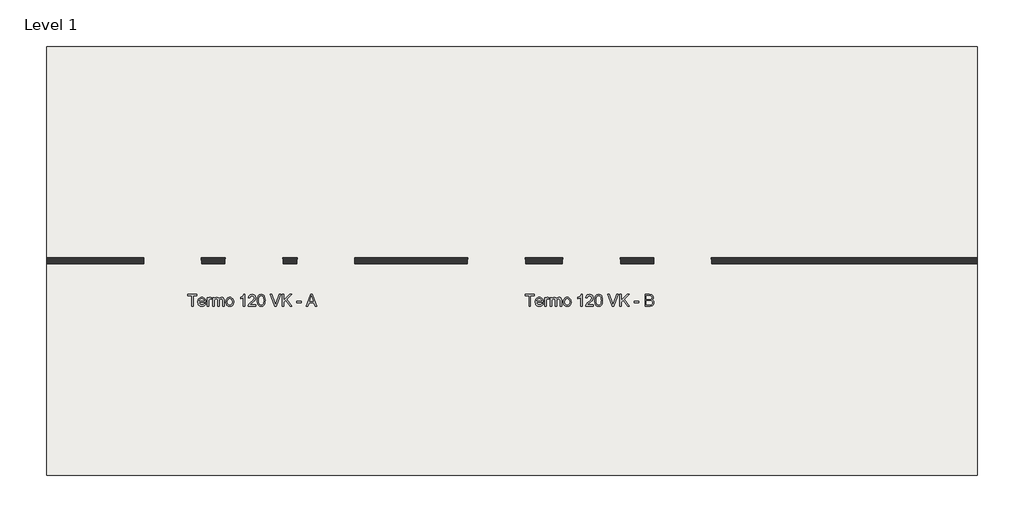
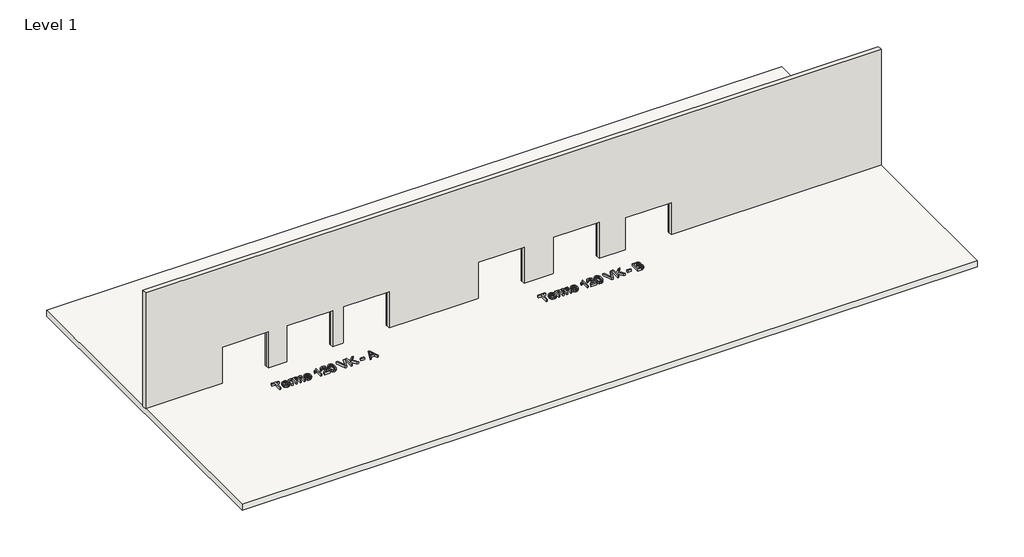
# One storey, incomplete: 2 proxies, 1 slab, 1 wall.
"""IFC4 building model written with IfcOpenShell, lengths in millimetres."""

from ifc_helpers import new_model, si_unit, frame, origin, origin_with_axes, place, context, project, spatial, polyline, outline, extrude, faceted_brep, element, save

model = new_model("IFC4")

# Units and contexts
model_context = context("Model", 3, world=origin())
ifc_project = project(units=[si_unit("LENGTHUNIT", "METRE", prefix="MILLI")], contexts=[model_context])

# Site, building, storey
site = spatial("IfcSite", under=ifc_project)
building = spatial("IfcBuilding", under=site)
storey = spatial("IfcBuildingStorey", under=building, Name="Level 1", Elevation=0.0)

# Proxies
placement = place(None, origin())
element("IfcBuildingElementProxy", 1, Name="600mm Arial", ObjectType="600mm Arial", at=placement, inside=storey, context=model_context, shape_type="SweptSolid", body=[
    extrude(outline(polyline([(-16765.2081941, -2366.0717314), (-16765.2081941, -1838.6761031), (-16962.9815547, -1838.6761031), (-16962.9815547, -1763.3338705), (-16492.0926009, -1763.3338705), (-16492.0926009, -1838.6761031), (-16689.8659615, -1838.6761031), (-16689.8659615, -2366.0717314), (-16765.2081941, -2366.0717314)])), origin_with_axes(), (0.0, 0.0, 1.0), 150.0),
    extrude(outline(polyline([(-16106.8465755, -2234.2228243), (-16032.9758709, -2243.6406034), (-16044.3020378, -2273.2275129), (-16059.5921333, -2299.3011493), (-16078.8461572, -2321.8615127), (-16102.0641096, -2340.908603), (-16129.0068672, -2356.03775), (-16159.4353068, -2366.8442836), (-16193.3494282, -2373.3282038), (-16230.7492315, -2375.4895105), (-16277.4978361, -2371.7601068), (-16319.151275, -2360.5718956), (-16355.7095482, -2341.924877), (-16387.1726559, -2315.8190509), (-16412.4737401, -2282.9809843), (-16430.5459431, -2244.1372441), (-16441.3892649, -2199.2878304), (-16445.0037055, -2148.4327431), (-16441.3524767, -2095.8532089), (-16430.3987903, -2049.5092746), (-16412.1426463, -2009.40094), (-16386.5840447, -1975.5282053), (-16355.2037105, -1948.6176374), (-16319.4823688, -1929.3958031), (-16279.4200195, -1917.8627026), (-16235.0166627, -1914.0183357), (-16192.0434471, -1917.8535055), (-16153.1813128, -1929.3590149), (-16118.4302599, -1948.5348639), (-16087.7902882, -1975.3810525), (-16062.778911, -2009.1802108), (-16044.9136417, -2049.214969), (-16034.19448, -2095.4853269), (-16030.6214261, -2147.9912847), (-16031.0628845, -2168.2983708), (-16369.6614729, -2168.2983708), (-16365.2974727, -2198.3635269), (-16356.6200562, -2224.6946807), (-16343.6292232, -2247.2918322), (-16326.3249739, -2266.1549815), (-16305.6638013, -2281.0266112), (-16282.6021987, -2291.6492038), (-16257.1401661, -2298.0227594), (-16229.2777035, -2300.1472779), (-16189.1785661, -2296.2109405), (-16155.4069989, -2284.4019285), (-16127.9630021, -2263.9844778), (-16106.8465755, -2234.2228243)]), holes=[polyline([(-16369.6614729, -2092.9561382), (-16105.9636588, -2092.9561382), (-16116.15399, -2053.1513063), (-16124.9187786, -2037.4979274), (-16136.1299824, -2024.6772399), (-16156.6761918, -2009.2261961), (-16180.0550926, -1998.1897362), (-16206.2666847, -1991.5678603), (-16235.3109683, -1989.3605684), (-16261.8030704, -1991.1218034), (-16286.0970777, -1996.4055086), (-16308.19299, -2005.2116838), (-16328.0908074, -2017.5403292), (-16344.7880515, -2032.8212276), (-16357.2822438, -2050.4841619), (-16365.5733842, -2070.5291321), (-16369.6614729, -2092.9561382)])]), origin_with_axes(), (0.0, 0.0, 1.0), 150.0),
    extrude(outline(polyline([(-15955.2791935, -2366.0717314), (-15955.2791935, -1923.4361148), (-15889.35474, -1923.4361148), (-15889.35474, -1988.91911), (-15865.0009519, -1950.9536881), (-15842.5601502, -1928.5864628), (-15820.0457721, -1917.6603675), (-15795.4712548, -1914.0183357), (-15757.9472913, -1919.8308713), (-15719.8347166, -1937.2684778), (-15744.9978451, -2004.8116122), (-15771.4853487, -1993.2233293), (-15797.9728524, -1989.3605684), (-15820.4688364, -1993.0761765), (-15840.5735874, -2004.223001), (-15856.8155775, -2021.9549131), (-15867.7232787, -2045.4257844), (-15876.8835404, -2087.5114847), (-15879.9369609, -2133.4231577), (-15879.9369609, -2366.0717314), (-15955.2791935, -2366.0717314)])), origin_with_axes(), (0.0, 0.0, 1.0), 150.0),
    extrude(outline(polyline([(-15672.7458212, -2366.0717314), (-15672.7458212, -1923.4361148), (-15597.4035886, -1923.4361148), (-15597.4035886, -1996.2767499), (-15574.7420577, -1962.8178824), (-15545.6058037, -1936.6062903), (-15510.988108, -1919.6653244), (-15471.8822519, -1914.0183357), (-15429.9804926, -1919.775689), (-15412.1474129, -1926.9723805), (-15396.3928665, -1937.0477486), (-15371.3033144, -1964.6940806), (-15354.8957774, -2001.5742506), (-15327.4333865, -1963.2685379), (-15296.1082346, -1935.9073145), (-15260.9203217, -1919.4905804), (-15221.8696479, -1914.0183357), (-15191.7079229, -1916.2946056), (-15165.2342148, -1923.1234151), (-15142.4485237, -1934.5047644), (-15123.3508496, -1950.4386533), (-15108.2538923, -1971.1090229), (-15097.4703513, -1996.6998142), (-15091.0002267, -2027.2110271), (-15088.8435185, -2062.6426618), (-15088.8435185, -2366.0717314), (-15164.1857511, -2366.0717314), (-15164.1857511, -2095.0162774), (-15165.9331906, -2057.4371316), (-15171.175509, -2032.1084562), (-15180.9979583, -2014.7628201), (-15196.4857903, -2001.1327922), (-15216.4066003, -1992.3036243), (-15239.5279837, -1989.3605684), (-15260.878935, -1991.2459636), (-15280.3444911, -1996.9021493), (-15297.9246519, -2006.3291254), (-15313.6194175, -2019.526892), (-15326.5274771, -2036.8817251), (-15335.7475196, -2058.7799008), (-15341.2795451, -2085.2214193), (-15343.1235536, -2116.2062803), (-15343.1235536, -2366.0717314), (-15418.4657862, -2366.0717314), (-15418.4657862, -2086.6285679), (-15422.8251878, -2044.0278328), (-15428.2744399, -2027.3075962), (-15435.9033927, -2013.64078), (-15446.0155491, -2003.0181874), (-15458.9144115, -1995.4306213), (-15474.5999801, -1990.8780816), (-15493.0722548, -1989.3605684), (-15522.0981442, -1993.4072703), (-15548.8431653, -2005.5473761), (-15570.916085, -2025.4865803), (-15585.9256704, -2052.9305771), (-15594.5341091, -2091.0063636), (-15597.4035886, -2142.8409367), (-15597.4035886, -2366.0717314), (-15672.7458212, -2366.0717314)])), origin_with_axes(), (0.0, 0.0, 1.0), 150.0),
    extrude(outline(polyline([(-14994.6657277, -2144.7539231), (-14990.5914346, -2087.4287112), (-14978.3685553, -2038.0313563), (-14957.9970899, -1996.5618584), (-14929.4770382, -1963.0202175), (-14900.7638485, -1941.5818942), (-14869.0708146, -1926.2688062), (-14834.3979365, -1917.0809534), (-14796.7452143, -1914.0183357), (-14755.1791474, -1917.7477395), (-14717.5954031, -1928.9359507), (-14683.9939813, -1947.5829693), (-14654.3748822, -1973.6887954), (-14630.2004366, -2006.3705121), (-14612.9329754, -2044.7452027), (-14602.5724987, -2088.8128672), (-14599.1190065, -2138.5735056), (-14600.6457168, -2178.9025693), (-14605.2258476, -2214.6882904), (-14612.859399, -2245.9306688), (-14623.546371, -2272.6297046), (-14637.1534063, -2295.6913072), (-14653.5471477, -2316.021386), (-14672.7275952, -2333.6199409), (-14694.6947489, -2348.4869721), (-14718.593283, -2360.3005826), (-14743.5678719, -2368.7388759), (-14769.6185157, -2373.8018518), (-14796.7452143, -2375.4895105), (-14838.9182865, -2371.7739023), (-14876.8515188, -2360.6270779), (-14910.544911, -2342.0490371), (-14939.9984632, -2316.0397801), (-14963.9153915, -2283.0407651), (-14980.9989116, -2243.4934506), (-14991.2490237, -2197.3978366), (-14994.6657277, -2144.7539231)]), holes=[polyline([(-14919.3234951, -2144.6067703), (-14917.1437943, -2181.151248), (-14910.6046918, -2212.7936981), (-14899.7061877, -2239.5341207), (-14884.448282, -2261.3725156), (-14865.8886353, -2278.3364741), (-14845.0849085, -2290.4535873), (-14822.0371015, -2297.7238552), (-14796.7452143, -2300.1472779), (-14771.5820859, -2297.7100597), (-14748.6262494, -2290.398405), (-14727.8777048, -2278.2123139), (-14709.3364523, -2261.1517864), (-14694.0785465, -2239.0972608), (-14683.1800424, -2211.9291754), (-14676.6409399, -2179.6475304), (-14674.4612391, -2142.2523256), (-14676.6547355, -2106.8666761), (-14683.2352247, -2076.0519605), (-14694.2027067, -2049.8081787), (-14709.5571815, -2028.1353307), (-14728.1674119, -2011.1713721), (-14748.9021608, -1999.0542589), (-14771.7614283, -1991.783991), (-14796.7452143, -1989.3605684), (-14822.0371015, -1991.774794), (-14845.0849085, -1999.0174707), (-14865.8886353, -2011.0885987), (-14884.448282, -2027.9881779), (-14899.7061877, -2049.7621934), (-14910.6046918, -2076.4566307), (-14917.1437943, -2108.0714897), (-14919.3234951, -2144.6067703)])]), origin_with_axes(), (0.0, 0.0, 1.0), 150.0),
    extrude(outline(polyline([(-14015.2167038, -2366.0717314), (-14090.5589364, -2366.0717314), (-14090.5589364, -1896.36), (-14122.012847, -1921.7990399), (-14161.9280434, -1947.2012917), (-14203.8298027, -1969.4029701), (-14241.2434016, -1985.24029), (-14241.2434016, -1914.0183357), (-14182.0695827, -1881.8286612), (-14130.8052267, -1843.5321455), (-14090.3933895, -1802.8076086), (-14063.7771271, -1763.3338705), (-14015.2167038, -1763.3338705), (-14015.2167038, -2366.0717314)])), origin_with_axes(), (0.0, 0.0, 1.0), 150.0),
    extrude(outline(polyline([(-13450.1499592, -2290.7294988), (-13450.1499592, -2366.0717314), (-13845.6966804, -2366.0717314), (-13844.0412114, -2339.5474396), (-13837.6032765, -2314.1267937), (-13819.0252357, -2273.5310155), (-13791.8387563, -2234.149248), (-13752.512171, -2192.9280704), (-13697.5138127, -2146.8140623), (-13616.2118918, -2074.5988266), (-13567.4307392, -2021.2927255), (-13553.2029031, -1999.5141114), (-13543.040163, -1978.0298029), (-13536.9425189, -1956.8398), (-13534.9099709, -1935.9441027), (-13536.8275558, -1916.2854085), (-13542.5803105, -1898.2178041), (-13552.168235, -1881.7412892), (-13565.5913293, -1866.855864), (-13582.1046323, -1854.5272186), (-13600.9631831, -1845.7210433), (-13622.1669816, -1840.4373382), (-13645.7160278, -1838.6761031), (-13670.5250699, -1840.3959515), (-13692.7129527, -1845.5554964), (-13712.2796763, -1854.1547381), (-13729.2252407, -1866.1936764), (-13742.9334436, -1881.2676411), (-13752.7880825, -1898.9719621), (-13758.7891576, -1919.3066394), (-13760.9366687, -1942.271673), (-13836.2789013, -1932.8538939), (-13829.7995797, -1893.95957), (-13818.0135603, -1859.9764707), (-13800.9208431, -1830.904596), (-13778.5214281, -1806.743946), (-13751.3303501, -1787.752038), (-13719.8626439, -1774.1863894), (-13684.1183096, -1766.0470002), (-13644.097347, -1763.3338705), (-13603.7176995, -1766.3505029), (-13567.7802271, -1775.4004), (-13536.2849298, -1790.4835618), (-13509.2318076, -1811.5999883), (-13487.5037773, -1837.1861811), (-13471.9837556, -1865.6786416), (-13462.6717426, -1897.0773699), (-13459.5677383, -1931.3823659), (-13462.9154644, -1967.4164073), (-13472.9586429, -2002.8250494), (-13490.7825255, -2038.8406967), (-13517.4723643, -2076.695754), (-13560.017917, -2121.8900571), (-13625.4089417, -2179.9234419), (-13712.0819397, -2252.3961949), (-13746.0742361, -2290.7294988), (-13450.1499592, -2290.7294988)])), origin_with_axes(), (0.0, 0.0, 1.0), 150.0),
    extrude(outline(polyline([(-13374.8077266, -2069.5588433), (-13369.2711025, -1973.0817901), (-13362.3503225, -1932.1687137), (-13352.6612305, -1896.1392708), (-13340.2452131, -1864.6991558), (-13325.1436572, -1837.554063), (-13307.3565627, -1814.7039926), (-13286.8839297, -1796.1489445), (-13263.6567802, -1781.7923496), (-13237.6061365, -1771.537639), (-13208.7319984, -1765.3848126), (-13177.034366, -1763.3338705), (-13130.6076582, -1768.1899129), (-13089.0369927, -1782.7580399), (-13054.2721442, -1806.4680345), (-13028.2628871, -1838.7496795), (-13008.6179886, -1879.3270636), (-12992.9462156, -1927.9242752), (-12982.6823079, -1989.6364799), (-12979.2610053, -2069.5588433), (-12984.7424471, -2165.4840736), (-12991.5942492, -2206.2591942), (-13001.1867723, -2242.2426518), (-13013.5062206, -2273.6965624), (-13028.5387986, -2300.8830419), (-13046.2845063, -2323.8020902), (-13066.7433438, -2342.4537073), (-13089.9980844, -2356.9068712), (-13116.1315017, -2367.2305597), (-13145.1435955, -2373.4247728), (-13177.034366, -2375.4895105), (-13218.531455, -2371.902661), (-13255.3196545, -2361.1421127), (-13287.3989645, -2343.2078654), (-13314.769385, -2318.0999192), (-13341.0361594, -2272.7124781), (-13359.7981412, -2216.1598184), (-13371.0553302, -2148.4419401), (-13374.8077266, -2069.5588433)]), holes=[polyline([(-13299.465494, -2069.4116905), (-13297.258202, -2134.9084812), (-13290.6363261, -2187.9248753), (-13279.5998662, -2228.4608726), (-13264.1488224, -2256.5164733), (-13245.4604171, -2275.6049503), (-13224.7118725, -2289.2395767), (-13201.9031888, -2297.4203526), (-13177.034366, -2300.1472779), (-13152.1655431, -2297.4111555), (-13129.3568594, -2289.2027885), (-13108.6083149, -2275.5221768), (-13089.9199095, -2256.3693205), (-13074.4688657, -2228.2677346), (-13063.4324058, -2187.7409343), (-13056.8105299, -2134.7889196), (-13054.603238, -2069.4116905), (-13056.7369535, -2005.6485437), (-13063.1381003, -1953.5656502), (-13073.8066781, -1913.1630101), (-13088.7426871, -1884.4406233), (-13107.1183928, -1864.4186457), (-13128.1060606, -1850.1172332), (-13151.7056906, -1841.5363856), (-13177.9172827, -1838.6761031), (-13202.6573469, -1841.1960948), (-13225.0797545, -1848.7560698), (-13245.1845056, -1861.3560281), (-13262.9716, -1878.9959698), (-13278.9376786, -1910.2659394), (-13290.3420205, -1952.425216), (-13297.1846256, -2005.4737997), (-13299.465494, -2069.4116905)])]), origin_with_axes(), (0.0, 0.0, 1.0), 150.0),
    extrude(outline(polyline([(-12471.583852, -2366.0717314), (-12711.4429129, -1763.3338705), (-12630.8031795, -1763.3338705), (-12470.2594768, -2197.5817776), (-12437.7387084, -2295.4383883), (-12405.6593985, -2197.5817776), (-12244.6742374, -1763.3338705), (-12164.034504, -1763.3338705), (-12393.7400218, -2366.0717314), (-12471.583852, -2366.0717314)])), origin_with_axes(), (0.0, 0.0, 1.0), 150.0),
    extrude(outline(polyline([(-12093.9897722, -2366.0717314), (-12093.9897722, -1763.3338705), (-12018.6475395, -1763.3338705), (-12018.6475395, -2058.3752307), (-11709.6266636, -1763.3338705), (-11604.2652602, -1763.3338705), (-11863.6956432, -2011.1391825), (-11594.8474811, -2366.0717314), (-11686.9651327, -2366.0717314), (-11917.1121089, -2062.0540506), (-12018.6475395, -2158.8805917), (-12018.6475395, -2366.0717314), (-12093.9897722, -2366.0717314)])), origin_with_axes(), (0.0, 0.0, 1.0), 150.0),
    extrude(outline(polyline([(-11349.9852251, -2187.133929), (-11349.9852251, -2111.7916964), (-11114.5407482, -2111.7916964), (-11114.5407482, -2187.133929), (-11349.9852251, -2187.133929)])), origin_with_axes(), (0.0, 0.0, 1.0), 150.0),
    extrude(outline(polyline([(-10855.1103652, -2366.0717314), (-10614.5155404, -1763.3338705), (-10550.3569204, -1763.3338705), (-10309.7620955, -2366.0717314), (-10389.3717593, -2366.0717314), (-10458.3864216, -2177.7161499), (-10706.6331919, -2177.7161499), (-10775.5007014, -2366.0717314), (-10855.1103652, -2366.0717314)]), holes=[polyline([(-10678.9684659, -2102.3739173), (-10485.9039948, -2102.3739173), (-10540.2033773, -1954.1910496), (-10582.4362304, -1838.6761031), (-10619.9601939, -1941.2416034), (-10678.9684659, -2102.3739173)])]), origin_with_axes(), (0.0, 0.0, 1.0), 150.0),
])
element("IfcBuildingElementProxy", 2, Name="600mm Arial", ObjectType="600mm Arial", at=placement, inside=storey, context=model_context, shape_type="SweptSolid", body=[
    extrude(outline(polyline([(634.7918059, -2366.0717314), (634.7918059, -1838.6761031), (437.0184453, -1838.6761031), (437.0184453, -1763.3338705), (907.9073991, -1763.3338705), (907.9073991, -1838.6761031), (710.1340385, -1838.6761031), (710.1340385, -2366.0717314), (634.7918059, -2366.0717314)])), origin_with_axes(), (0.0, 0.0, 1.0), 150.0),
    extrude(outline(polyline([(1293.1534245, -2234.2228243), (1367.0241291, -2243.6406034), (1355.6979622, -2273.2275129), (1340.4078667, -2299.3011493), (1321.1538428, -2321.8615127), (1297.9358904, -2340.908603), (1270.9931328, -2356.03775), (1240.5646932, -2366.8442836), (1206.6505718, -2373.3282038), (1169.2507685, -2375.4895105), (1122.5021639, -2371.7601068), (1080.848725, -2360.5718956), (1044.2904518, -2341.924877), (1012.8273441, -2315.8190509), (987.5262599, -2282.9809843), (969.4540569, -2244.1372441), (958.6107351, -2199.2878304), (954.9962945, -2148.4327431), (958.6475233, -2095.8532089), (969.6012097, -2049.5092746), (987.8573537, -2009.40094), (1013.4159553, -1975.5282053), (1044.7962895, -1948.6176374), (1080.5176312, -1929.3958031), (1120.5799805, -1917.8627026), (1164.9833373, -1914.0183357), (1207.9565529, -1917.8535055), (1246.8186872, -1929.3590149), (1281.5697401, -1948.5348639), (1312.2097118, -1975.3810525), (1337.221089, -2009.1802108), (1355.0863583, -2049.214969), (1365.80552, -2095.4853269), (1369.3785739, -2147.9912847), (1368.9371155, -2168.2983708), (1030.3385271, -2168.2983708), (1034.7025273, -2198.3635269), (1043.3799438, -2224.6946807), (1056.3707768, -2247.2918322), (1073.6750261, -2266.1549815), (1094.3361987, -2281.0266112), (1117.3978013, -2291.6492038), (1142.8598339, -2298.0227594), (1170.7222965, -2300.1472779), (1210.8214339, -2296.2109405), (1244.5930011, -2284.4019285), (1272.0369979, -2263.9844778), (1293.1534245, -2234.2228243)]), holes=[polyline([(1030.3385271, -2092.9561382), (1294.0363412, -2092.9561382), (1283.84601, -2053.1513063), (1275.0812214, -2037.4979274), (1263.8700176, -2024.6772399), (1243.3238082, -2009.2261961), (1219.9449074, -1998.1897362), (1193.7333153, -1991.5678603), (1164.6890317, -1989.3605684), (1138.1969296, -1991.1218034), (1113.9029223, -1996.4055086), (1091.80701, -2005.2116838), (1071.9091926, -2017.5403292), (1055.2119485, -2032.8212276), (1042.7177562, -2050.4841619), (1034.4266158, -2070.5291321), (1030.3385271, -2092.9561382)])]), origin_with_axes(), (0.0, 0.0, 1.0), 150.0),
    extrude(outline(polyline([(1444.7208065, -2366.0717314), (1444.7208065, -1923.4361148), (1510.64526, -1923.4361148), (1510.64526, -1988.91911), (1534.9990481, -1950.9536881), (1557.4398498, -1928.5864628), (1579.9542279, -1917.6603675), (1604.5287452, -1914.0183357), (1642.0527087, -1919.8308713), (1680.1652834, -1937.2684778), (1655.0021549, -2004.8116122), (1628.5146513, -1993.2233293), (1602.0271476, -1989.3605684), (1579.5311636, -1993.0761765), (1559.4264126, -2004.223001), (1543.1844225, -2021.9549131), (1532.2767213, -2045.4257844), (1523.1164596, -2087.5114847), (1520.0630391, -2133.4231577), (1520.0630391, -2366.0717314), (1444.7208065, -2366.0717314)])), origin_with_axes(), (0.0, 0.0, 1.0), 150.0),
    extrude(outline(polyline([(1727.2541788, -2366.0717314), (1727.2541788, -1923.4361148), (1802.5964114, -1923.4361148), (1802.5964114, -1996.2767499), (1825.2579423, -1962.8178824), (1854.3941963, -1936.6062903), (1889.011892, -1919.6653244), (1928.1177481, -1914.0183357), (1970.0195074, -1919.775689), (1987.8525871, -1926.9723805), (2003.6071335, -1937.0477486), (2028.6966856, -1964.6940806), (2045.1042226, -2001.5742506), (2072.5666135, -1963.2685379), (2103.8917654, -1935.9073145), (2139.0796783, -1919.4905804), (2178.1303521, -1914.0183357), (2208.2920771, -1916.2946056), (2234.7657852, -1923.1234151), (2257.5514763, -1934.5047644), (2276.6491504, -1950.4386533), (2291.7461077, -1971.1090229), (2302.5296487, -1996.6998142), (2308.9997733, -2027.2110271), (2311.1564815, -2062.6426618), (2311.1564815, -2366.0717314), (2235.8142489, -2366.0717314), (2235.8142489, -2095.0162774), (2234.0668094, -2057.4371316), (2228.824491, -2032.1084562), (2219.0020417, -2014.7628201), (2203.5142097, -2001.1327922), (2183.5933997, -1992.3036243), (2160.4720163, -1989.3605684), (2139.121065, -1991.2459636), (2119.6555089, -1996.9021493), (2102.0753481, -2006.3291254), (2086.3805825, -2019.526892), (2073.4725229, -2036.8817251), (2064.2524804, -2058.7799008), (2058.7204549, -2085.2214193), (2056.8764464, -2116.2062803), (2056.8764464, -2366.0717314), (1981.5342138, -2366.0717314), (1981.5342138, -2086.6285679), (1977.1748122, -2044.0278328), (1971.7255601, -2027.3075962), (1964.0966073, -2013.64078), (1953.9844509, -2003.0181874), (1941.0855885, -1995.4306213), (1925.4000199, -1990.8780816), (1906.9277452, -1989.3605684), (1877.9018558, -1993.4072703), (1851.1568347, -2005.5473761), (1829.083915, -2025.4865803), (1814.0743296, -2052.9305771), (1805.4658909, -2091.0063636), (1802.5964114, -2142.8409367), (1802.5964114, -2366.0717314), (1727.2541788, -2366.0717314)])), origin_with_axes(), (0.0, 0.0, 1.0), 150.0),
    extrude(outline(polyline([(2405.3342723, -2144.7539231), (2409.4085654, -2087.4287112), (2421.6314447, -2038.0313563), (2442.0029101, -1996.5618584), (2470.5229618, -1963.0202175), (2499.2361515, -1941.5818942), (2530.9291854, -1926.2688062), (2565.6020635, -1917.0809534), (2603.2547857, -1914.0183357), (2644.8208526, -1917.7477395), (2682.4045969, -1928.9359507), (2716.0060187, -1947.5829693), (2745.6251178, -1973.6887954), (2769.7995634, -2006.3705121), (2787.0670246, -2044.7452027), (2797.4275013, -2088.8128672), (2800.8809935, -2138.5735056), (2799.3542832, -2178.9025693), (2794.7741524, -2214.6882904), (2787.140601, -2245.9306688), (2776.453629, -2272.6297046), (2762.8465937, -2295.6913072), (2746.4528523, -2316.021386), (2727.2724048, -2333.6199409), (2705.3052511, -2348.4869721), (2681.406717, -2360.3005826), (2656.4321281, -2368.7388759), (2630.3814843, -2373.8018518), (2603.2547857, -2375.4895105), (2561.0817135, -2371.7739023), (2523.1484812, -2360.6270779), (2489.455089, -2342.0490371), (2460.0015368, -2316.0397801), (2436.0846085, -2283.0407651), (2419.0010884, -2243.4934506), (2408.7509763, -2197.3978366), (2405.3342723, -2144.7539231)]), holes=[polyline([(2480.6765049, -2144.6067703), (2482.8562057, -2181.151248), (2489.3953082, -2212.7936981), (2500.2938123, -2239.5341207), (2515.551718, -2261.3725156), (2534.1113647, -2278.3364741), (2554.9150915, -2290.4535873), (2577.9628985, -2297.7238552), (2603.2547857, -2300.1472779), (2628.4179141, -2297.7100597), (2651.3737506, -2290.398405), (2672.1222952, -2278.2123139), (2690.6635477, -2261.1517864), (2705.9214535, -2239.0972608), (2716.8199576, -2211.9291754), (2723.3590601, -2179.6475304), (2725.5387609, -2142.2523256), (2723.3452645, -2106.8666761), (2716.7647753, -2076.0519605), (2705.7972933, -2049.8081787), (2690.4428185, -2028.1353307), (2671.8325881, -2011.1713721), (2651.0978392, -1999.0542589), (2628.2385717, -1991.783991), (2603.2547857, -1989.3605684), (2577.9628985, -1991.774794), (2554.9150915, -1999.0174707), (2534.1113647, -2011.0885987), (2515.551718, -2027.9881779), (2500.2938123, -2049.7621934), (2489.3953082, -2076.4566307), (2482.8562057, -2108.0714897), (2480.6765049, -2144.6067703)])]), origin_with_axes(), (0.0, 0.0, 1.0), 150.0),
    extrude(outline(polyline([(3384.7832962, -2366.0717314), (3309.4410636, -2366.0717314), (3309.4410636, -1896.36), (3277.987153, -1921.7990399), (3238.0719566, -1947.2012917), (3196.1701973, -1969.4029701), (3158.7565984, -1985.24029), (3158.7565984, -1914.0183357), (3217.9304173, -1881.8286612), (3269.1947733, -1843.5321455), (3309.6066105, -1802.8076086), (3336.2228729, -1763.3338705), (3384.7832962, -1763.3338705), (3384.7832962, -2366.0717314)])), origin_with_axes(), (0.0, 0.0, 1.0), 150.0),
    extrude(outline(polyline([(3949.8500408, -2290.7294988), (3949.8500408, -2366.0717314), (3554.3033196, -2366.0717314), (3555.9587886, -2339.5474396), (3562.3967235, -2314.1267937), (3580.9747643, -2273.5310155), (3608.1612437, -2234.149248), (3647.487829, -2192.9280704), (3702.4861873, -2146.8140623), (3783.7881082, -2074.5988266), (3832.5692608, -2021.2927255), (3846.7970969, -1999.5141114), (3856.959837, -1978.0298029), (3863.0574811, -1956.8398), (3865.0900291, -1935.9441027), (3863.1724442, -1916.2854085), (3857.4196895, -1898.2178041), (3847.831765, -1881.7412892), (3834.4086707, -1866.855864), (3817.8953677, -1854.5272186), (3799.0368169, -1845.7210433), (3777.8330184, -1840.4373382), (3754.2839722, -1838.6761031), (3729.4749301, -1840.3959515), (3707.2870473, -1845.5554964), (3687.7203237, -1854.1547381), (3670.7747593, -1866.1936764), (3657.0665564, -1881.2676411), (3647.2119175, -1898.9719621), (3641.2108424, -1919.3066394), (3639.0633313, -1942.271673), (3563.7210987, -1932.8538939), (3570.2004203, -1893.95957), (3581.9864397, -1859.9764707), (3599.0791569, -1830.904596), (3621.4785719, -1806.743946), (3648.6696499, -1787.752038), (3680.1373561, -1774.1863894), (3715.8816904, -1766.0470002), (3755.902653, -1763.3338705), (3796.2823005, -1766.3505029), (3832.2197729, -1775.4004), (3863.7150702, -1790.4835618), (3890.7681924, -1811.5999883), (3912.4962227, -1837.1861811), (3928.0162444, -1865.6786416), (3937.3282574, -1897.0773699), (3940.4322617, -1931.3823659), (3937.0845356, -1967.4164073), (3927.0413571, -2002.8250494), (3909.2174745, -2038.8406967), (3882.5276357, -2076.695754), (3839.982083, -2121.8900571), (3774.5910583, -2179.9234419), (3687.9180603, -2252.3961949), (3653.9257639, -2290.7294988), (3949.8500408, -2290.7294988)])), origin_with_axes(), (0.0, 0.0, 1.0), 150.0),
    extrude(outline(polyline([(4025.1922734, -2069.5588433), (4030.7288975, -1973.0817901), (4037.6496775, -1932.1687137), (4047.3387695, -1896.1392708), (4059.7547869, -1864.6991558), (4074.8563428, -1837.5540631), (4092.6434373, -1814.7039926), (4113.1160703, -1796.1489445), (4136.3432198, -1781.7923496), (4162.3938635, -1771.537639), (4191.2680016, -1765.3848126), (4222.965634, -1763.3338705), (4269.3923418, -1768.1899129), (4310.9630073, -1782.7580399), (4345.7278558, -1806.4680345), (4371.7371129, -1838.7496795), (4391.3820114, -1879.3270636), (4407.0537844, -1927.9242752), (4417.3176921, -1989.6364799), (4420.7389947, -2069.5588433), (4415.2575529, -2165.4840736), (4408.4057508, -2206.2591942), (4398.8132277, -2242.2426518), (4386.4937794, -2273.6965624), (4371.4612014, -2300.8830419), (4353.7154937, -2323.8020902), (4333.2566562, -2342.4537073), (4310.0019156, -2356.9068712), (4283.8684983, -2367.2305597), (4254.8564045, -2373.4247728), (4222.965634, -2375.4895105), (4181.468545, -2371.902661), (4144.6803455, -2361.1421127), (4112.6010355, -2343.2078654), (4085.230615, -2318.0999192), (4058.9638406, -2272.7124781), (4040.2018588, -2216.1598184), (4028.9446698, -2148.4419401), (4025.1922734, -2069.5588433)]), holes=[polyline([(4100.534506, -2069.4116905), (4102.741798, -2134.9084812), (4109.3636739, -2187.9248753), (4120.4001338, -2228.4608726), (4135.8511776, -2256.5164733), (4154.5395829, -2275.6049503), (4175.2881275, -2289.2395767), (4198.0968112, -2297.4203526), (4222.965634, -2300.1472779), (4247.8344569, -2297.4111555), (4270.6431406, -2289.2027885), (4291.3916851, -2275.5221768), (4310.0800905, -2256.3693205), (4325.5311343, -2228.2677346), (4336.5675942, -2187.7409343), (4343.1894701, -2134.7889196), (4345.396762, -2069.4116905), (4343.2630465, -2005.6485437), (4336.8618997, -1953.5656502), (4326.1933219, -1913.1630101), (4311.2573129, -1884.4406233), (4292.8816072, -1864.4186457), (4271.8939394, -1850.1172332), (4248.2943094, -1841.5363856), (4222.0827173, -1838.6761031), (4197.3426531, -1841.1960948), (4174.9202455, -1848.7560698), (4154.8154944, -1861.3560281), (4137.0284, -1878.9959698), (4121.0623214, -1910.2659394), (4109.6579795, -1952.425216), (4102.8153744, -2005.4737997), (4100.534506, -2069.4116905)])]), origin_with_axes(), (0.0, 0.0, 1.0), 150.0),
    extrude(outline(polyline([(4928.416148, -2366.0717314), (4688.5570871, -1763.3338705), (4769.1968205, -1763.3338705), (4929.7405232, -2197.5817776), (4962.2612916, -2295.4383883), (4994.3406015, -2197.5817776), (5155.3257626, -1763.3338705), (5235.965496, -1763.3338705), (5006.2599782, -2366.0717314), (4928.416148, -2366.0717314)])), origin_with_axes(), (0.0, 0.0, 1.0), 150.0),
    extrude(outline(polyline([(5306.0102278, -2366.0717314), (5306.0102278, -1763.3338705), (5381.3524605, -1763.3338705), (5381.3524605, -2058.3752307), (5690.3733364, -1763.3338705), (5795.7347398, -1763.3338705), (5536.3043568, -2011.1391825), (5805.1525189, -2366.0717314), (5713.0348673, -2366.0717314), (5482.8878911, -2062.0540506), (5381.3524605, -2158.8805917), (5381.3524605, -2366.0717314), (5306.0102278, -2366.0717314)])), origin_with_axes(), (0.0, 0.0, 1.0), 150.0),
    extrude(outline(polyline([(6050.0147749, -2187.133929), (6050.0147749, -2111.7916964), (6285.4592518, -2111.7916964), (6285.4592518, -2187.133929), (6050.0147749, -2187.133929)])), origin_with_axes(), (0.0, 0.0, 1.0), 150.0),
    extrude(outline(polyline([(6615.0815195, -2366.0717314), (6615.0815195, -1763.3338705), (6845.0813429, -1763.3338705), (6908.3386519, -1767.7668486), (6957.7268098, -1781.0657827), (6977.8039697, -1791.1227567), (6995.5818671, -1803.5617667), (7011.060502, -1818.3828126), (7024.2398745, -1835.5858944), (7042.2844864, -1873.2570107), (7048.299357, -1912.6939606), (7043.2409796, -1948.9855194), (7028.0658473, -1983.1065744), (7002.6635955, -2012.9601984), (6966.9238597, -2036.4494637), (6989.6635655, -2046.1431543), (7009.6165652, -2058.7431127), (7026.7828588, -2074.2493387), (7041.1624463, -2092.6618326), (7052.5254014, -2113.4195742), (7060.6417979, -2135.9615434), (7065.5116359, -2160.2877404), (7067.1349152, -2186.398165), (7062.7019371, -2228.4286829), (7049.403003, -2267.4057803), (7029.5557693, -2300.5519481), (7005.4778928, -2325.0896772), (6975.9921508, -2342.8583775), (6939.9213212, -2355.6974592), (6896.0881815, -2363.4781634), (6843.3155093, -2366.0717314), (6615.0815195, -2366.0717314)]), holes=[polyline([(6690.4237521, -2008.1961265), (6828.0116183, -2008.1961265), (6876.1305833, -2006.5774457), (6908.357046, -2001.7214034), (6936.4816246, -1990.5561848), (6956.6967402, -1973.8359482), (6968.8920283, -1951.8182108), (6972.9571244, -1924.76049), (6969.1679398, -1898.4937156), (6957.8003862, -1875.6114555), (6939.3694982, -1857.7507846), (6914.3903108, -1846.5487778), (6876.0570069, -1840.6442718), (6817.5637696, -1838.6761031), (6690.4237521, -1838.6761031), (6690.4237521, -2008.1961265)]), polyline([(6690.4237521, -2290.7294988), (6844.9341901, -2290.7294988), (6900.8522533, -2287.7864428), (6926.8063281, -2281.2565374), (6948.1618779, -2271.3789059), (6965.5259081, -2257.2338431), (6979.5054239, -2237.9016443), (6988.7208679, -2214.246832), (6991.7926825, -2187.133929), (6988.187439, -2155.6432302), (6977.3717083, -2128.5671153), (6958.4809679, -2107.3955065), (6930.6506949, -2093.6183258), (6891.2321392, -2086.0583508), (6837.5765502, -2083.5383591), (6690.4237521, -2083.5383591), (6690.4237521, -2290.7294988)])]), origin_with_axes(), (0.0, 0.0, 1.0), 150.0),
])

# Slab
element("IfcSlab", 3, ObjectType="Generic Floor - 400mm", at=placement, inside=storey, context=model_context, shape_type="SweptSolid", body=[
    extrude(outline(polyline([(-24243.7227392, -11078.5076479), (-24243.7227392, 11021.4923521), (23756.2772608, 11021.4923521), (23756.2772608, -11078.5076479), (-24243.7227392, -11078.5076479)])), frame((0.0, 0.0, -400.0), z_axis=(0.0, 0.0, 1.0), x_axis=(1.0, 0.0, 0.0)), (0.0, 0.0, 1.0), 400.0),
])

# Wall
element("IfcWall", 4, ObjectType="Generic - 300mm", at=placement, inside=storey, context=model_context, shape_type="Brep", body=[
    faceted_brep([(23756.2772608, -178.5076479, 0.0), (23756.2772608, -178.5076479, 8000.0), (-24243.7227392, -178.5076479, 8000.0), (-24243.7227392, -178.5076479, 0.0), (-19243.7227392, -178.5076479, 0.0), (-19243.7227392, -178.5076479, 2500.0), (-16243.7227392, -178.5076479, 2500.0), (-16243.7227392, -178.5076479, 0.0), (-15043.7227392, -178.5076479, 0.0), (-15043.7227392, -178.5076479, 2499.9997946), (-12043.7227392, -178.5076479, 2499.9997946), (-12043.7227392, -178.5076479, 0.0), (-11343.7227392, -178.5076479, 0.0), (-11343.7227392, -178.5076479, 2500.0), (-8343.7227392, -178.5076479, 2500.0), (-8343.7227392, -178.5076479, 0.0), (-2543.7227392, -178.5076479, 0.0), (-2543.7227392, -178.5076479, 2500.0), (456.2772608, -178.5076479, 2500.0), (456.2772608, -178.5076479, 0.0), (2356.2772608, -178.5076479, 0.0), (2356.2772608, -178.5076479, 2500.003327), (5356.2772608, -178.5076479, 2500.003327), (5356.2772608, -178.5076479, 0.0), (7056.2772608, -178.5076479, 0.0), (7056.2772608, -178.5076479, 2210.003327), (10056.2772608, -178.5076479, 2210.003327), (10056.2772608, -178.5076479, 0.0), (23756.2772608, 121.4923521, 8000.0), (23756.2772608, 121.4923521, 0.0), (10036.2772608, 121.4923521, 0.0), (10036.2772608, 121.4923521, 2190.003327), (7076.2772608, 121.4923521, 2190.003327), (7076.2772608, 121.4923521, 0.0), (5336.2772608, 121.4923521, 0.0), (5336.2772608, 121.4923521, 2480.003327), (2376.2772608, 121.4923521, 2480.003327), (2376.2772608, 121.4923521, 0.0), (436.2772608, 121.4923521, 0.0), (436.2772608, 121.4923521, 2480.0), (-2523.7227392, 121.4923521, 2480.0), (-2523.7227392, 121.4923521, 0.0), (-8363.7227392, 121.4923521, 0.0), (-8363.7227392, 121.4923521, 2480.0), (-11323.7227392, 121.4923521, 2480.0), (-11323.7227392, 121.4923521, 0.0), (-12063.7227392, 121.4923521, 0.0), (-12063.7227392, 121.4923521, 2479.9997946), (-15023.7227392, 121.4923521, 2479.9997946), (-15023.7227392, 121.4923521, 0.0), (-16263.7227392, 121.4923521, 0.0), (-16263.7227392, 121.4923521, 2480.0), (-19223.7227392, 121.4923521, 2480.0), (-19223.7227392, 121.4923521, 0.0), (-24243.7227392, 121.4923521, 0.0), (-24243.7227392, 121.4923521, 8000.0), (10056.2772608, 47.3623521, 0.0), (10036.2772608, 47.3623521, 0.0), (-19223.7227392, 6.4923521, 0.0), (-19243.7227392, 6.4923521, 0.0), (-16243.7227392, 6.4923521, 0.0), (-16263.7227392, 6.4923521, 0.0), (-15023.7227392, 68.0523521, 0.0), (-15043.7227392, 68.0523521, 0.0), (-11323.7227392, 47.3432157, 0.0), (-11343.7227392, 47.3432157, 0.0), (-12043.7227392, 68.0523521, 0.0), (-12063.7227392, 68.0523521, 0.0), (-8343.7227392, 47.3432157, 0.0), (-8363.7227392, 47.3432157, 0.0), (-2523.7227392, 47.3623521, 0.0), (-2543.7227392, 47.3623521, 0.0), (456.2772608, 47.3623521, 0.0), (436.2772608, 47.3623521, 0.0), (2376.2772608, 47.3623521, 0.0), (2356.2772608, 47.3623521, 0.0), (5356.2772608, 47.3623521, 0.0), (5336.2772608, 47.3623521, 0.0), (7076.2772608, 47.3623521, 0.0), (7056.2772608, 47.3623521, 0.0), (-16243.7227392, 6.4923521, 2500.0), (-19243.7227392, 6.4923521, 2500.0), (-19223.7227392, 6.4923521, 2480.0), (-16263.7227392, 6.4923521, 2480.0), (-15043.7227392, 68.0523521, 2499.9997946), (-15023.7227392, 68.0523521, 2479.9997946), (-12063.7227392, 68.0523521, 2479.9997946), (-12043.7227392, 68.0523521, 2499.9997946), (-8343.7227392, 47.3432157, 2500.0), (-11343.7227392, 47.3432157, 2500.0), (-11323.7227392, 47.3432157, 2480.0), (-8363.7227392, 47.3432157, 2480.0), (456.2772608, 47.3623521, 2500.0), (-2543.7227392, 47.3623521, 2500.0), (-2523.7227392, 47.3623521, 2480.0), (436.2772608, 47.3623521, 2480.0), (5356.2772608, 47.3623521, 2500.003327), (2356.2772608, 47.3623521, 2500.003327), (2376.2772608, 47.3623521, 2480.003327), (5336.2772608, 47.3623521, 2480.003327), (10056.2772608, 47.3623521, 2210.003327), (7056.2772608, 47.3623521, 2210.003327), (7076.2772608, 47.3623521, 2190.003327), (10036.2772608, 47.3623521, 2190.003327)], [[[0, 1, 2, 3, 4, 5, 6, 7, 8, 9, 10, 11, 12, 13, 14, 15, 16, 17, 18, 19, 20, 21, 22, 23, 24, 25, 26, 27]], [[28, 29, 30, 31, 32, 33, 34, 35, 36, 37, 38, 39, 40, 41, 42, 43, 44, 45, 46, 47, 48, 49, 50, 51, 52, 53, 54, 55]], [[29, 0, 27, 56, 57, 30]], [[3, 54, 53, 58, 59, 4]], [[60, 61, 50, 49, 62, 63, 8, 7]], [[64, 65, 12, 11, 66, 67, 46, 45]], [[68, 69, 42, 41, 70, 71, 16, 15]], [[72, 73, 38, 37, 74, 75, 20, 19]], [[76, 77, 34, 33, 78, 79, 24, 23]], [[1, 0, 29, 28]], [[2, 1, 28, 55]], [[3, 2, 55, 54]], [[80, 81, 59, 58, 82, 83, 61, 60]], [[81, 80, 6, 5]], [[80, 60, 7, 6]], [[59, 81, 5, 4]], [[61, 83, 51, 50]], [[82, 58, 53, 52]], [[83, 82, 52, 51]], [[84, 63, 62, 85, 86, 67, 66, 87]], [[84, 87, 10, 9]], [[87, 66, 11, 10]], [[63, 84, 9, 8]], [[67, 86, 47, 46]], [[85, 62, 49, 48]], [[86, 85, 48, 47]], [[88, 89, 65, 64, 90, 91, 69, 68]], [[89, 88, 14, 13]], [[88, 68, 15, 14]], [[65, 89, 13, 12]], [[69, 91, 43, 42]], [[90, 64, 45, 44]], [[91, 90, 44, 43]], [[92, 93, 71, 70, 94, 95, 73, 72]], [[93, 92, 18, 17]], [[71, 93, 17, 16]], [[92, 72, 19, 18]], [[94, 70, 41, 40]], [[73, 95, 39, 38]], [[95, 94, 40, 39]], [[96, 97, 75, 74, 98, 99, 77, 76]], [[97, 96, 22, 21]], [[96, 76, 23, 22]], [[75, 97, 21, 20]], [[77, 99, 35, 34]], [[98, 74, 37, 36]], [[99, 98, 36, 35]], [[100, 101, 79, 78, 102, 103, 57, 56]], [[101, 100, 26, 25]], [[100, 56, 27, 26]], [[79, 101, 25, 24]], [[57, 103, 31, 30]], [[102, 78, 33, 32]], [[103, 102, 32, 31]]]),
])

save(model, "model.ifc")
